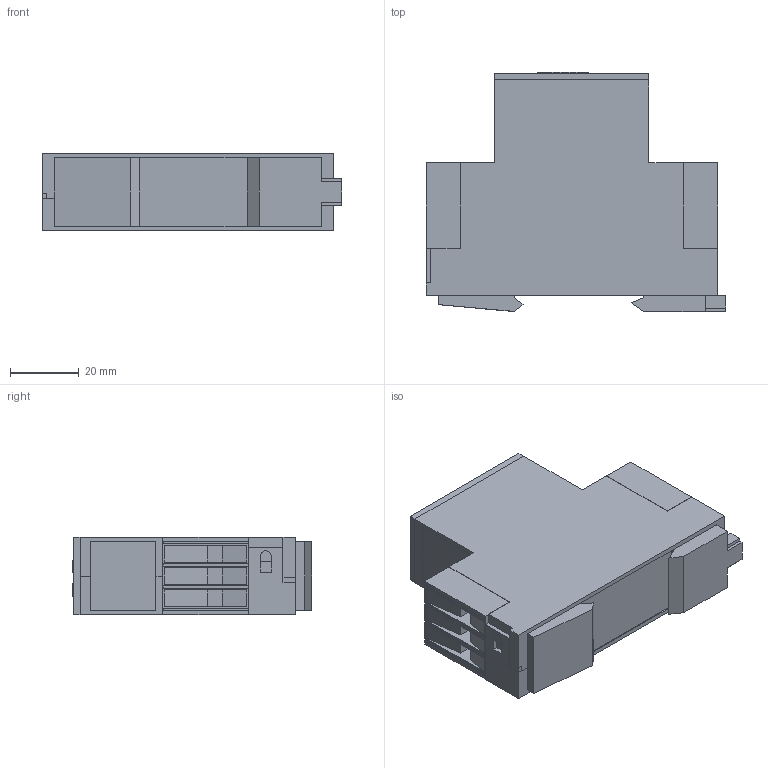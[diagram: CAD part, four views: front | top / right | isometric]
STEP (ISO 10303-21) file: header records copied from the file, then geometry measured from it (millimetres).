
FILE_DESCRIPTION (( 'STEP AP203' ), '1' );
FILE_NAME ('KR_GX440ii.STEP', '2017-02-13T15:54:25', ( '' ), ( '' ), 'SwSTEP 2.0', 'SolidWorks 2013', '' );
FILE_SCHEMA (( 'CONFIG_CONTROL_DESIGN' ));
Length unit declared in the file: millimetre
Products named in the file (7): klip_din; D璱2; Zaslepka; viko; Svorka_2; Krab_1; KR_GX440ii
Assembly tree (9 placements, depth 2):
  KR_GX440ii
    Krab_1  x2
    viko
    Zaslepka  x2
    klip_din
    Svorka_2  x2
    D璱2
Bounding box: 87.2 x 69.5 x 22.6 mm (x, y, z)
Volume: 34128.6 mm3; surface area: 35273.4 mm2
Topology: 18 solids, 18 shells, 510 faces, 1368 edges, 912 vertices
Faces by surface type: plane 450, bspline 42, cylinder 18
Entity records: 13997 total; most frequent: CARTESIAN_POINT 4742, ORIENTED_EDGE 1848, DIRECTION 1510, EDGE_CURVE 924, VECTOR 806, LINE 806, VERTEX_POINT 616, EDGE_LOOP 372
